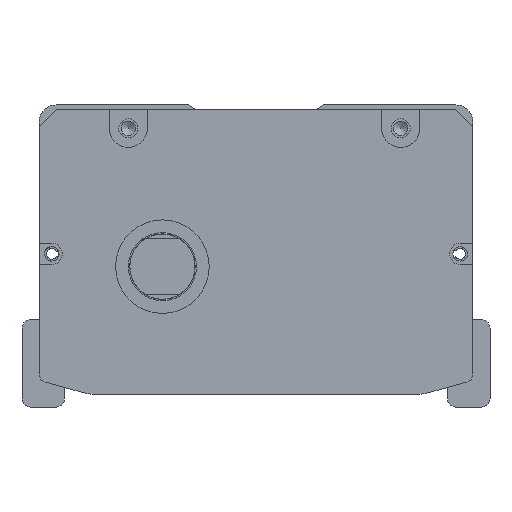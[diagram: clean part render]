
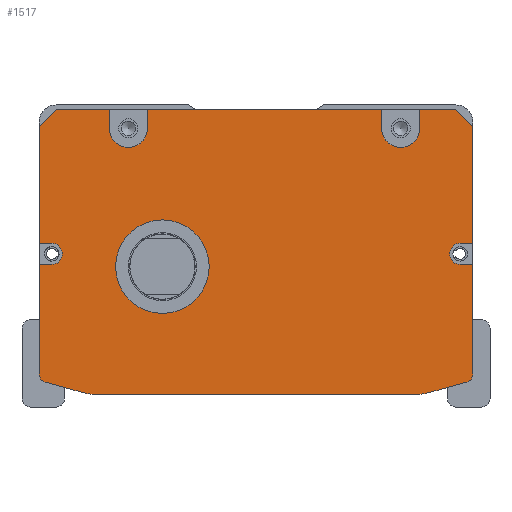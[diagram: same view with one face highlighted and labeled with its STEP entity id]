
A CAD part, front view. The second image highlights one B-rep face of the part: STEP entity #1517.
In plain terms, the highlighted planar face has unit normal (0, -1, 0).
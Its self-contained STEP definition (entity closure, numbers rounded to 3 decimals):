
#913=FACE_BOUND('',#2927,.T.);
#914=FACE_BOUND('',#2928,.T.);
#1517=ADVANCED_FACE('',(#913,#914),#2098,.F.);
#2098=PLANE('',#11546);
#2927=EDGE_LOOP('',(#5208,#5209,#5210,#5211,#5212,#5213,#5214,#5215,#5216,
#5217,#5218,#5219,#5220,#5221,#5222,#5223,#5224,#5225,#5226,#5227,#5228,
#5229,#5230,#5231,#5232,#5233,#5234,#5235));
#2928=EDGE_LOOP('',(#5236));
#3834=CIRCLE('',#11537,4.5);
#3835=CIRCLE('',#11538,4.5);
#3836=CIRCLE('',#11539,2.5);
#3837=CIRCLE('',#11540,2.);
#3838=CIRCLE('',#11541,10.);
#3839=CIRCLE('',#11542,10.);
#3840=CIRCLE('',#11543,2.);
#3841=CIRCLE('',#11544,2.5);
#3842=CIRCLE('',#11545,11.);
#5208=ORIENTED_EDGE('',*,*,#8453,.T.);
#5209=ORIENTED_EDGE('',*,*,#8877,.T.);
#5210=ORIENTED_EDGE('',*,*,#8878,.T.);
#5211=ORIENTED_EDGE('',*,*,#8879,.F.);
#5212=ORIENTED_EDGE('',*,*,#8880,.T.);
#5213=ORIENTED_EDGE('',*,*,#8881,.F.);
#5214=ORIENTED_EDGE('',*,*,#8882,.T.);
#5215=ORIENTED_EDGE('',*,*,#8883,.F.);
#5216=ORIENTED_EDGE('',*,*,#8884,.T.);
#5217=ORIENTED_EDGE('',*,*,#8885,.F.);
#5218=ORIENTED_EDGE('',*,*,#8886,.T.);
#5219=ORIENTED_EDGE('',*,*,#8887,.T.);
#5220=ORIENTED_EDGE('',*,*,#8485,.T.);
#5221=ORIENTED_EDGE('',*,*,#8888,.T.);
#5222=ORIENTED_EDGE('',*,*,#8889,.T.);
#5223=ORIENTED_EDGE('',*,*,#8890,.T.);
#5224=ORIENTED_EDGE('',*,*,#8481,.T.);
#5225=ORIENTED_EDGE('',*,*,#8891,.T.);
#5226=ORIENTED_EDGE('',*,*,#8892,.T.);
#5227=ORIENTED_EDGE('',*,*,#8893,.T.);
#5228=ORIENTED_EDGE('',*,*,#8894,.T.);
#5229=ORIENTED_EDGE('',*,*,#8895,.T.);
#5230=ORIENTED_EDGE('',*,*,#8896,.T.);
#5231=ORIENTED_EDGE('',*,*,#8897,.T.);
#5232=ORIENTED_EDGE('',*,*,#8457,.T.);
#5233=ORIENTED_EDGE('',*,*,#8898,.T.);
#5234=ORIENTED_EDGE('',*,*,#8899,.T.);
#5235=ORIENTED_EDGE('',*,*,#8900,.T.);
#5236=ORIENTED_EDGE('',*,*,#8901,.T.);
#7361=VERTEX_POINT('',#15857);
#7362=VERTEX_POINT('',#15859);
#7365=VERTEX_POINT('',#15865);
#7366=VERTEX_POINT('',#15867);
#7387=VERTEX_POINT('',#15912);
#7388=VERTEX_POINT('',#15914);
#7391=VERTEX_POINT('',#15920);
#7392=VERTEX_POINT('',#15922);
#7659=VERTEX_POINT('',#16729);
#7660=VERTEX_POINT('',#16731);
#7661=VERTEX_POINT('',#16733);
#7662=VERTEX_POINT('',#16735);
#7663=VERTEX_POINT('',#16737);
#7664=VERTEX_POINT('',#16739);
#7665=VERTEX_POINT('',#16741);
#7666=VERTEX_POINT('',#16743);
#7667=VERTEX_POINT('',#16745);
#7668=VERTEX_POINT('',#16747);
#7669=VERTEX_POINT('',#16750);
#7670=VERTEX_POINT('',#16752);
#7671=VERTEX_POINT('',#16755);
#7672=VERTEX_POINT('',#16757);
#7673=VERTEX_POINT('',#16759);
#7674=VERTEX_POINT('',#16761);
#7675=VERTEX_POINT('',#16763);
#7676=VERTEX_POINT('',#16765);
#7677=VERTEX_POINT('',#16768);
#7678=VERTEX_POINT('',#16770);
#7679=VERTEX_POINT('',#16773);
#8453=EDGE_CURVE('',#7362,#7361,#9888,.T.);
#8457=EDGE_CURVE('',#7366,#7365,#9892,.T.);
#8481=EDGE_CURVE('',#7388,#7387,#9916,.T.);
#8485=EDGE_CURVE('',#7392,#7391,#9920,.T.);
#8877=EDGE_CURVE('',#7361,#7659,#10157,.T.);
#8878=EDGE_CURVE('',#7659,#7660,#10158,.T.);
#8879=EDGE_CURVE('',#7661,#7660,#10159,.T.);
#8880=EDGE_CURVE('',#7661,#7662,#3834,.T.);
#8881=EDGE_CURVE('',#7663,#7662,#10160,.T.);
#8882=EDGE_CURVE('',#7663,#7664,#10161,.T.);
#8883=EDGE_CURVE('',#7665,#7664,#10162,.T.);
#8884=EDGE_CURVE('',#7665,#7666,#3835,.T.);
#8885=EDGE_CURVE('',#7667,#7666,#10163,.T.);
#8886=EDGE_CURVE('',#7667,#7668,#10164,.T.);
#8887=EDGE_CURVE('',#7668,#7392,#10165,.T.);
#8888=EDGE_CURVE('',#7391,#7669,#10166,.T.);
#8889=EDGE_CURVE('',#7669,#7670,#3836,.T.);
#8890=EDGE_CURVE('',#7670,#7388,#10167,.T.);
#8891=EDGE_CURVE('',#7387,#7671,#3837,.T.);
#8892=EDGE_CURVE('',#7671,#7672,#10168,.T.);
#8893=EDGE_CURVE('',#7672,#7673,#3838,.T.);
#8894=EDGE_CURVE('',#7673,#7674,#10169,.T.);
#8895=EDGE_CURVE('',#7674,#7675,#3839,.T.);
#8896=EDGE_CURVE('',#7675,#7676,#10170,.T.);
#8897=EDGE_CURVE('',#7676,#7366,#3840,.T.);
#8898=EDGE_CURVE('',#7365,#7677,#10171,.T.);
#8899=EDGE_CURVE('',#7677,#7678,#3841,.T.);
#8900=EDGE_CURVE('',#7678,#7362,#10172,.T.);
#8901=EDGE_CURVE('',#7679,#7679,#3842,.T.);
#9888=LINE('',#15858,#10541);
#9892=LINE('',#15866,#10545);
#9916=LINE('',#15913,#10569);
#9920=LINE('',#15921,#10573);
#10157=LINE('',#16728,#10810);
#10158=LINE('',#16730,#10811);
#10159=LINE('',#16732,#10812);
#10160=LINE('',#16736,#10813);
#10161=LINE('',#16738,#10814);
#10162=LINE('',#16740,#10815);
#10163=LINE('',#16744,#10816);
#10164=LINE('',#16746,#10817);
#10165=LINE('',#16748,#10818);
#10166=LINE('',#16749,#10819);
#10167=LINE('',#16753,#10820);
#10168=LINE('',#16756,#10821);
#10169=LINE('',#16760,#10822);
#10170=LINE('',#16764,#10823);
#10171=LINE('',#16767,#10824);
#10172=LINE('',#16771,#10825);
#10541=VECTOR('',#12653,1.);
#10545=VECTOR('',#12657,1.);
#10569=VECTOR('',#12683,1.);
#10573=VECTOR('',#12687,1.);
#10810=VECTOR('',#13530,1.);
#10811=VECTOR('',#13531,1.);
#10812=VECTOR('',#13532,1.);
#10813=VECTOR('',#13535,1.);
#10814=VECTOR('',#13536,1.);
#10815=VECTOR('',#13537,1.);
#10816=VECTOR('',#13540,1.);
#10817=VECTOR('',#13541,1.);
#10818=VECTOR('',#13542,1.);
#10819=VECTOR('',#13543,1.);
#10820=VECTOR('',#13546,1.);
#10821=VECTOR('',#13549,1.);
#10822=VECTOR('',#13552,1.);
#10823=VECTOR('',#13555,1.);
#10824=VECTOR('',#13558,1.);
#10825=VECTOR('',#13561,1.);
#11537=AXIS2_PLACEMENT_3D('',#16734,#13533,#13534);
#11538=AXIS2_PLACEMENT_3D('',#16742,#13538,#13539);
#11539=AXIS2_PLACEMENT_3D('',#16751,#13544,#13545);
#11540=AXIS2_PLACEMENT_3D('',#16754,#13547,#13548);
#11541=AXIS2_PLACEMENT_3D('',#16758,#13550,#13551);
#11542=AXIS2_PLACEMENT_3D('',#16762,#13553,#13554);
#11543=AXIS2_PLACEMENT_3D('',#16766,#13556,#13557);
#11544=AXIS2_PLACEMENT_3D('',#16769,#13559,#13560);
#11545=AXIS2_PLACEMENT_3D('',#16772,#13562,#13563);
#11546=AXIS2_PLACEMENT_3D('',#16774,#13564,#13565);
#12653=DIRECTION('',(0.,0.,1.));
#12657=DIRECTION('',(0.,0.,1.));
#12683=DIRECTION('',(0.,0.,-1.));
#12687=DIRECTION('',(0.,0.,-1.));
#13530=DIRECTION('',(-0.707,0.,0.707));
#13531=DIRECTION('',(-1.,0.,0.));
#13532=DIRECTION('',(0.,0.,1.));
#13533=DIRECTION('',(0.,1.,0.));
#13534=DIRECTION('',(0.,0.,1.));
#13535=DIRECTION('',(0.,0.,-1.));
#13536=DIRECTION('',(-1.,0.,0.));
#13537=DIRECTION('',(0.,0.,1.));
#13538=DIRECTION('',(0.,1.,0.));
#13539=DIRECTION('',(0.,0.,1.));
#13540=DIRECTION('',(0.,0.,-1.));
#13541=DIRECTION('',(-1.,0.,0.));
#13542=DIRECTION('',(-0.707,0.,-0.707));
#13543=DIRECTION('',(1.,0.,0.));
#13544=DIRECTION('',(0.,1.,0.));
#13545=DIRECTION('',(0.,0.,1.));
#13546=DIRECTION('',(-1.,0.,0.));
#13547=DIRECTION('',(0.,-1.,0.));
#13548=DIRECTION('',(0.,0.,1.));
#13549=DIRECTION('',(0.963,0.,-0.269));
#13550=DIRECTION('',(0.,-1.,0.));
#13551=DIRECTION('',(0.,0.,1.));
#13552=DIRECTION('',(1.,0.,0.));
#13553=DIRECTION('',(0.,-1.,0.));
#13554=DIRECTION('',(0.,0.,-1.));
#13555=DIRECTION('',(0.963,0.,0.269));
#13556=DIRECTION('',(0.,-1.,0.));
#13557=DIRECTION('',(0.,0.,-1.));
#13558=DIRECTION('',(-1.,0.,0.));
#13559=DIRECTION('',(0.,1.,0.));
#13560=DIRECTION('',(0.,0.,1.));
#13561=DIRECTION('',(1.,0.,0.));
#13562=DIRECTION('',(0.,1.,0.));
#13563=DIRECTION('',(0.,0.,1.));
#13564=DIRECTION('',(0.,1.,0.));
#13565=DIRECTION('',(1.,0.,0.));
#15857=CARTESIAN_POINT('',(47.808,42.5,-5.));
#15858=CARTESIAN_POINT('',(47.808,42.5,-1.));
#15859=CARTESIAN_POINT('',(47.808,42.5,-32.5));
#15865=CARTESIAN_POINT('',(47.808,42.5,-37.5));
#15866=CARTESIAN_POINT('',(47.808,42.5,-1.));
#15867=CARTESIAN_POINT('',(47.808,42.5,-63.212));
#15912=CARTESIAN_POINT('',(-54.192,42.5,-63.212));
#15913=CARTESIAN_POINT('',(-54.192,42.5,-62.));
#15914=CARTESIAN_POINT('',(-54.192,42.5,-37.5));
#15920=CARTESIAN_POINT('',(-54.192,42.5,-32.5));
#15921=CARTESIAN_POINT('',(-54.192,42.5,-62.));
#15922=CARTESIAN_POINT('',(-54.192,42.5,-5.));
#16728=CARTESIAN_POINT('',(43.808,42.5,-1.));
#16729=CARTESIAN_POINT('',(43.808,42.5,-1.));
#16730=CARTESIAN_POINT('',(-3.192,42.5,-1.));
#16731=CARTESIAN_POINT('',(35.308,42.5,-1.));
#16732=CARTESIAN_POINT('',(35.308,42.5,-1.));
#16733=CARTESIAN_POINT('',(35.308,42.5,-5.5));
#16734=CARTESIAN_POINT('',(30.808,42.5,-5.5));
#16735=CARTESIAN_POINT('',(26.308,42.5,-5.5));
#16736=CARTESIAN_POINT('',(26.308,42.5,-1.));
#16737=CARTESIAN_POINT('',(26.308,42.5,-1.));
#16738=CARTESIAN_POINT('',(-54.192,42.5,-1.));
#16739=CARTESIAN_POINT('',(-28.692,42.5,-1.));
#16740=CARTESIAN_POINT('',(-28.692,42.5,-3.5));
#16741=CARTESIAN_POINT('',(-28.692,42.5,-5.5));
#16742=CARTESIAN_POINT('',(-33.192,42.5,-5.5));
#16743=CARTESIAN_POINT('',(-37.692,42.5,-5.5));
#16744=CARTESIAN_POINT('',(-37.692,42.5,-1.));
#16745=CARTESIAN_POINT('',(-37.692,42.5,-1.));
#16746=CARTESIAN_POINT('',(-54.192,42.5,-1.));
#16747=CARTESIAN_POINT('',(-50.192,42.5,-1.));
#16748=CARTESIAN_POINT('',(-54.192,42.5,-5.));
#16749=CARTESIAN_POINT('',(-3.192,42.5,-32.5));
#16750=CARTESIAN_POINT('',(-51.192,42.5,-32.5));
#16751=CARTESIAN_POINT('',(-51.192,42.5,-35.));
#16752=CARTESIAN_POINT('',(-51.192,42.5,-37.5));
#16753=CARTESIAN_POINT('',(-3.192,42.5,-37.5));
#16754=CARTESIAN_POINT('',(-52.192,42.5,-63.212));
#16755=CARTESIAN_POINT('',(-52.731,42.5,-65.138));
#16756=CARTESIAN_POINT('',(-55.807,42.5,-64.279));
#16757=CARTESIAN_POINT('',(-43.809,42.5,-67.631));
#16758=CARTESIAN_POINT('',(-41.118,42.5,-58.));
#16759=CARTESIAN_POINT('',(-41.118,42.5,-68.));
#16760=CARTESIAN_POINT('',(-54.692,42.5,-68.));
#16761=CARTESIAN_POINT('',(34.733,42.5,-68.));
#16762=CARTESIAN_POINT('',(34.733,42.5,-58.));
#16763=CARTESIAN_POINT('',(37.424,42.5,-67.631));
#16764=CARTESIAN_POINT('',(49.422,42.5,-64.279));
#16765=CARTESIAN_POINT('',(46.346,42.5,-65.138));
#16766=CARTESIAN_POINT('',(45.808,42.5,-63.212));
#16767=CARTESIAN_POINT('',(-3.192,42.5,-37.5));
#16768=CARTESIAN_POINT('',(44.808,42.5,-37.5));
#16769=CARTESIAN_POINT('',(44.808,42.5,-35.));
#16770=CARTESIAN_POINT('',(44.808,42.5,-32.5));
#16771=CARTESIAN_POINT('',(-3.192,42.5,-32.5));
#16772=CARTESIAN_POINT('',(-25.192,42.5,-38.));
#16773=CARTESIAN_POINT('',(-25.192,42.5,-27.));
#16774=CARTESIAN_POINT('',(-3.192,42.5,-1.));
